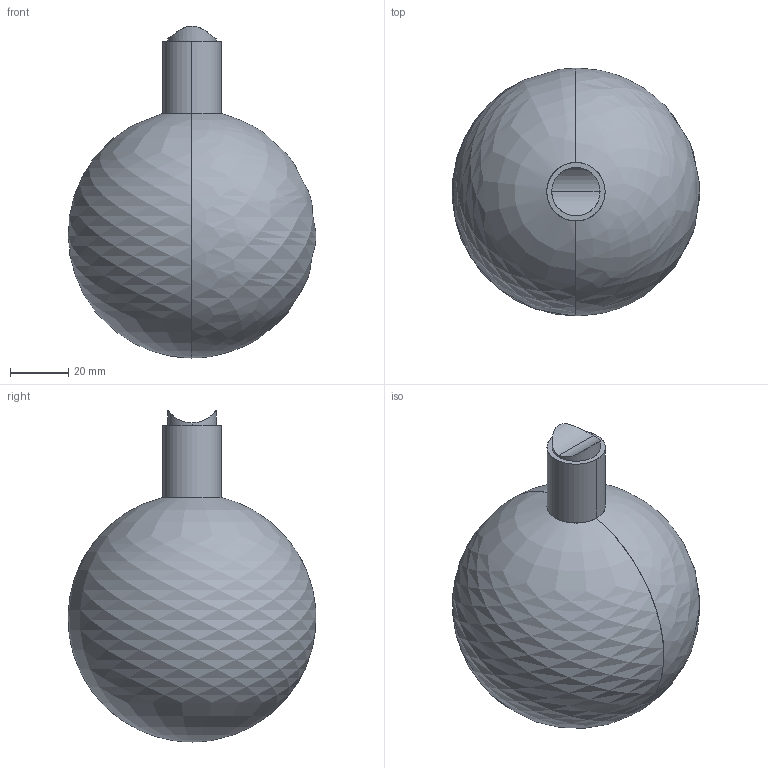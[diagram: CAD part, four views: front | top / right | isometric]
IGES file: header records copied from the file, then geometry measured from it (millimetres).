
Start section: SolidWorks IGES file using analytic representation for surfaces
Global section: file name: C:\Users\Joandita\Dropbox\Rakumba Marketing - Design\PRODUCT\TYPOGRAPHY\VELA\PRODUCT PHOTOGRAPHY\WORKING FILES\RENDERS\CAD\Lightweight\Lights\Globe 85.IGS; native system: SolidWorks 2017; preprocessor: SolidWorks 2017; author: Joandita; date: 210916.121035; units: millimetre
Bounding box: 84.91 x 84.96 x 113.77 mm (x, y, z)
Surface area: 48089.4 mm2 (no closed solid volume)
Topology: 0 solids, 0 shells, 21 faces, 376 edges, 375 vertices
Faces by surface type: revolution 16, bspline 5
